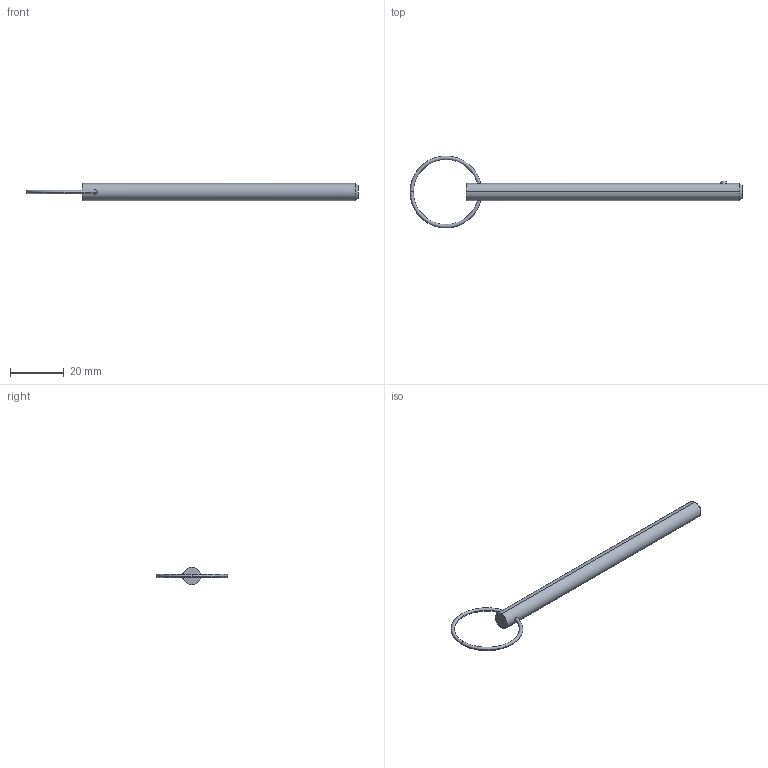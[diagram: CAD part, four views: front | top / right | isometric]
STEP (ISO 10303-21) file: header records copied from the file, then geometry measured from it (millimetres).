
FILE_DESCRIPTION (( 'STEP AP203' ), '1' );
FILE_NAME ('33012.W2535.step', '2024-11-01T14:07:35', ( '' ), ( '' ), 'SwSTEP 2.0', 'SolidWorks 2019', '' );
FILE_SCHEMA (( 'CONFIG_CONTROL_DESIGN' ));
Length unit declared in the file: millimetre
Products named in the file (3): Part1_33012.W2535; 33012.W2535; Part2_33012.W2535
Assembly tree (2 placements, depth 2):
  33012.W2535
    Part1_33012.W2535
    Part2_33012.W2535
Bounding box: 123.27 x 26.67 x 6.35 mm (x, y, z)
Volume: 3328.6 mm3; surface area: 2445.2 mm2
Topology: 2 solids, 2 shells, 16 faces, 31 edges, 18 vertices
Faces by surface type: torus 8, sphere 2, cone 2, cylinder 2, plane 2
Entity records: 811 total; most frequent: CARTESIAN_POINT 168, DIRECTION 88, ORIENTED_EDGE 62, AXIS2_PLACEMENT_3D 42, EDGE_CURVE 31, PERSON_AND_ORGANIZATION 26, CIRCLE 21, CALENDAR_DATE 19
